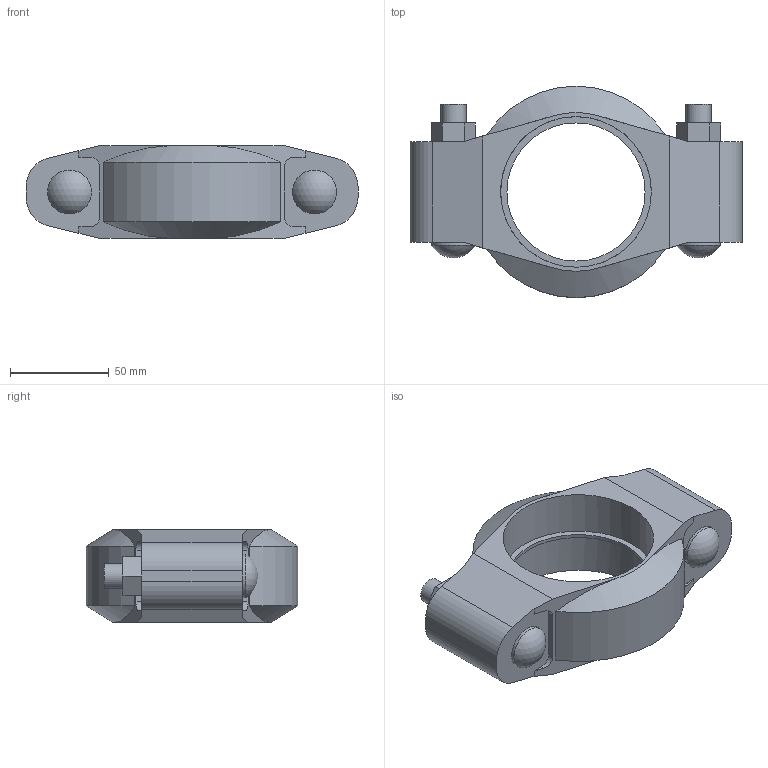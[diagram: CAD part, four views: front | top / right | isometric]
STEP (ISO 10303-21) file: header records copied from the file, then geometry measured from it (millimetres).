
FILE_DESCRIPTION(/* description */ ('VIC COUPLING STYLE 07 RIGID','CAx-IF Rec.Pracs.---Representation and Presentation of Product Manufacturing Information (PMI)---4.0---2014-10-13'),/* implementation_level */ '2;1');
FILE_NAME(/* name */ 'C:\Users\kkamble\Desktop\KIRAN\2022\Updated Couplings\007\Victaulic_IPS_Coupling Rigid_Style 07 (OGS)\Victaulic_IPS_Coupling Rigid_Style 07 (OGS)_02.5 (76.1) (65).stp',/* time_stamp */ '2022-03-25T09:56:24+05:00',/* author */ ('jheald'),/* organization */ ('Victaulic'),/* preprocessor_version */ 'ST-DEVELOPER v17.2',/* originating_system */ 'Autodesk Inventor 2019',/* authorisation */ '');
FILE_SCHEMA (('AP242_MANAGED_MODEL_BASED_3D_ENGINEERING_MIM_LF { 1 0 10303 442 1 1 4 }'));
Length unit declared in the file: inch
Products named in the file (1): 07-02.5 (76.1)
Bounding box: 167.89 x 106.93 x 46.74 mm (x, y, z)
Volume: 306715.5 mm3; surface area: 57480.4 mm2
Topology: 1 solids, 3 shells, 87 faces, 239 edges, 162 vertices
Faces by surface type: plane 54, cylinder 27, cone 4, sphere 2
Full cylindrical faces by diameter (mm): 12.7 x4, 22.225 x2, 69.85 x1, 76.2 x2
Entity records: 3036 total; most frequent: CARTESIAN_POINT 522, DIRECTION 507, ORIENTED_EDGE 478, EDGE_CURVE 239, AXIS2_PLACEMENT_3D 175, VERTEX_POINT 162, LINE 157, VECTOR 157
